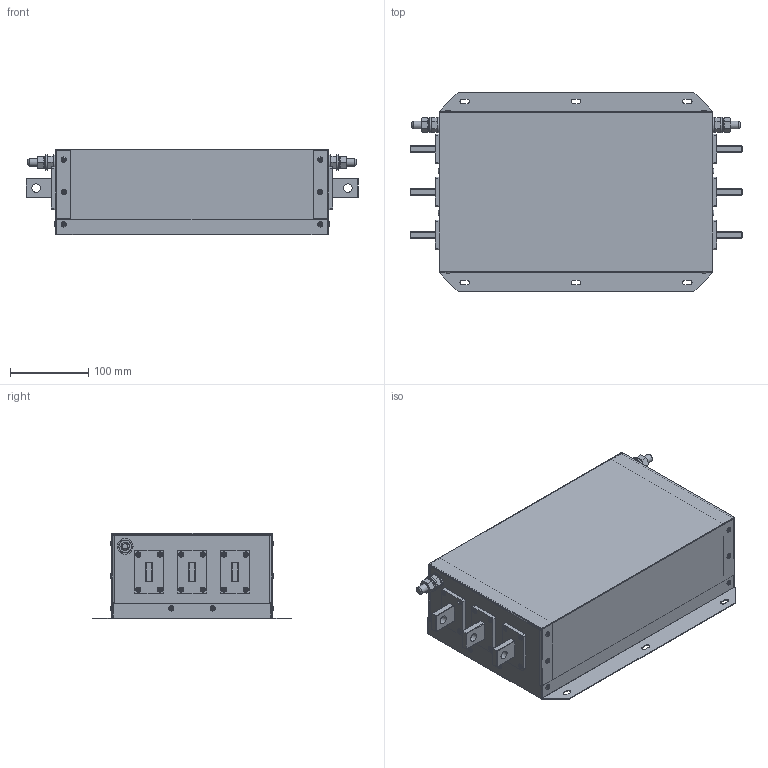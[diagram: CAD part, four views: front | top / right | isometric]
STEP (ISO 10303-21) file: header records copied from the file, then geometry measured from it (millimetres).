
FILE_DESCRIPTION(('STEP AP203'), '1');
FILE_NAME('ÝÌÑ ôèëüòð _ IEF-280_543-4', '', ('UNSPECIFIED'), ('UNSPECIFIED'), 'C3D Converter', 'C3D Toolkit', '');
FILE_SCHEMA(('CONFIG_CONTROL_DESIGN'));
Length unit declared in the file: millimetre
Products named in the file (20):  IEF-250/484-4; IEF-280_543-4; DIN 7337; DIN 125 (A); DIN 127 (A); DIN 976
Assembly tree (81 placements, depth 4):
   IEF-250/484-4
    IEF-280_543-4
      IEF-280_543-4
      IEF-280_543-4
      IEF-280_543-4
      DIN 7337  x16
        (unnamed)
      IEF-280_543-4
    DIN 125 (A)  x4
      (unnamed)
    DIN 127 (A)  x2
      (unnamed)
    (unnamed)  x4
      (unnamed)
    DIN 976  x2
      (unnamed)
    IEF-280_543-4  x12
    IEF-280_543-4  x6
    DIN 7337  x24
      (unnamed)
Bounding box: 425 x 255 x 110 mm (x, y, z)
Volume: 482945.2 mm3; surface area: 725690.8 mm2
Topology: 74 solids, 74 shells, 1138 faces, 2366 edges, 1480 vertices
Faces by surface type: plane 564, cylinder 394, torus 80, cone 60, sphere 24, bspline 16
Full cylindrical faces by diameter (mm): 2.1 x40, 3 x24, 3.2 x40, 3.5 x80, 6.8 x48, 8.376 x4, 10 x4, 10.5 x4, 11 x6, 20 x4
Entity records: 14660 total; most frequent: CARTESIAN_POINT 3429, DIRECTION 1816, ORIENTED_EDGE 1528, EDGE_CURVE 764, AXIS2_PLACEMENT_3D 681, EDGE_LOOP 608, VERTEX_POINT 518, LINE 454
